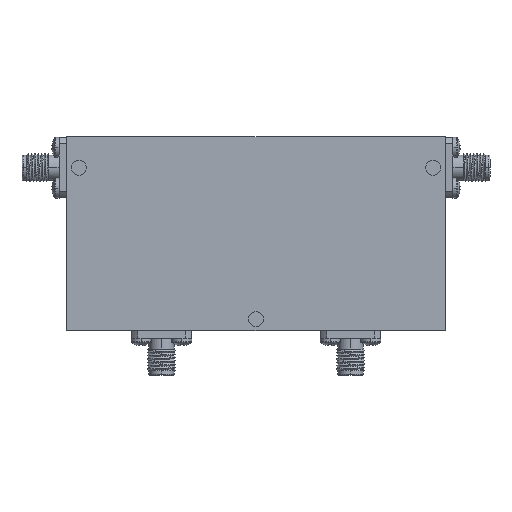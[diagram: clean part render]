
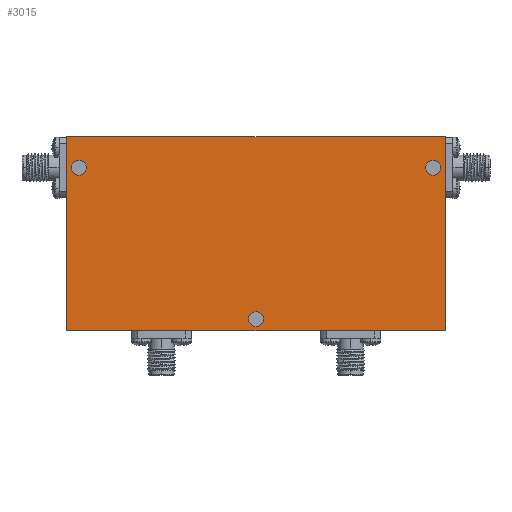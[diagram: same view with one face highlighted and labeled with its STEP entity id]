
A CAD part, top view. The second image highlights one B-rep face of the part: STEP entity #3015.
In plain terms, the highlighted planar face has unit normal (0, 0, 1).
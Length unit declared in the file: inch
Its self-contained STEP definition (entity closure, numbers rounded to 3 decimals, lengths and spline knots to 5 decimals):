
#29 = EDGE_CURVE ( 'NONE', #2453, #2862, #1216, .T. ) ;
#41 = AXIS2_PLACEMENT_3D ( 'NONE', #1481, #583, #3608 ) ;
#107 = EDGE_CURVE ( 'NONE', #1220, #871, #3563, .T. ) ;
#112 = CARTESIAN_POINT ( 'NONE',  ( -1.58, 0.81, 0.365 ) ) ;
#150 = CARTESIAN_POINT ( 'NONE',  ( -1.58, 0.81, 0.365 ) ) ;
#158 = EDGE_CURVE ( 'NONE', #1556, #3147, #3470, .T. ) ;
#159 = DIRECTION ( 'NONE',  ( 1., 0., 0. ) ) ;
#226 = EDGE_CURVE ( 'NONE', #2862, #2453, #3748, .T. ) ;
#251 = DIRECTION ( 'NONE',  ( 1., 0., 0. ) ) ;
#261 = DIRECTION ( 'NONE',  ( 1., 0., 0. ) ) ;
#267 = DIRECTION ( 'NONE',  ( 0., 0., 1. ) ) ;
#334 = CARTESIAN_POINT ( 'NONE',  ( 1.4175, 0.55, 0.365 ) ) ;
#420 = ORIENTED_EDGE ( 'NONE', *, *, #1489, .T. ) ;
#478 = VERTEX_POINT ( 'NONE', #2873 ) ;
#482 = EDGE_LOOP ( 'NONE', ( #1180, #3653 ) ) ;
#543 = AXIS2_PLACEMENT_3D ( 'NONE', #1025, #1297, #1284 ) ;
#564 = EDGE_CURVE ( 'NONE', #915, #1155, #3223, .T. ) ;
#583 = DIRECTION ( 'NONE',  ( 0., 0., 1. ) ) ;
#666 = EDGE_LOOP ( 'NONE', ( #864, #1137 ) ) ;
#742 = EDGE_LOOP ( 'NONE', ( #3325, #3094, #420, #2582 ) ) ;
#777 = DIRECTION ( 'NONE',  ( 0., 0., 1. ) ) ;
#864 = ORIENTED_EDGE ( 'NONE', *, *, #2351, .F. ) ;
#871 = VERTEX_POINT ( 'NONE', #1540 ) ;
#915 = VERTEX_POINT ( 'NONE', #3054 ) ;
#966 = FACE_BOUND ( 'NONE', #3384, .T. ) ;
#1025 = CARTESIAN_POINT ( 'NONE',  ( 1.48, 0.55, 0.365 ) ) ;
#1031 = VECTOR ( 'NONE', #1146, 39.37008 ) ;
#1137 = ORIENTED_EDGE ( 'NONE', *, *, #107, .F. ) ;
#1146 = DIRECTION ( 'NONE',  ( 0., -1., 0. ) ) ;
#1155 = VERTEX_POINT ( 'NONE', #3677 ) ;
#1180 = ORIENTED_EDGE ( 'NONE', *, *, #29, .F. ) ;
#1199 = CARTESIAN_POINT ( 'NONE',  ( -1.48, 0.55, 0.365 ) ) ;
#1216 = CIRCLE ( 'NONE', #1660, 0.0625 ) ;
#1220 = VERTEX_POINT ( 'NONE', #2222 ) ;
#1246 = CIRCLE ( 'NONE', #2340, 0.0625 ) ;
#1283 = VECTOR ( 'NONE', #2471, 39.37008 ) ;
#1284 = DIRECTION ( 'NONE',  ( 1., 0., 0. ) ) ;
#1297 = DIRECTION ( 'NONE',  ( 0., 0., 1. ) ) ;
#1346 = CARTESIAN_POINT ( 'NONE',  ( -1.58, 0.81, 0.365 ) ) ;
#1424 = FACE_BOUND ( 'NONE', #666, .T. ) ;
#1481 = CARTESIAN_POINT ( 'NONE',  ( -1.48, 0.55, 0.365 ) ) ;
#1489 = EDGE_CURVE ( 'NONE', #3743, #915, #1808, .T. ) ;
#1540 = CARTESIAN_POINT ( 'NONE',  ( 0.0625, -0.715, 0.365 ) ) ;
#1556 = VERTEX_POINT ( 'NONE', #3236 ) ;
#1616 = DIRECTION ( 'NONE',  ( 1., 0., 0. ) ) ;
#1636 = CARTESIAN_POINT ( 'NONE',  ( 1.58, 0.81, 0.365 ) ) ;
#1660 = AXIS2_PLACEMENT_3D ( 'NONE', #3742, #1939, #159 ) ;
#1739 = VECTOR ( 'NONE', #1941, 39.37008 ) ;
#1782 = EDGE_CURVE ( 'NONE', #3147, #1556, #2793, .T. ) ;
#1808 = LINE ( 'NONE', #1346, #1031 ) ;
#1906 = CARTESIAN_POINT ( 'NONE',  ( 0., -0.715, 0.365 ) ) ;
#1939 = DIRECTION ( 'NONE',  ( 0., 0., 1. ) ) ;
#1941 = DIRECTION ( 'NONE',  ( 0., 1., 0. ) ) ;
#2008 = DIRECTION ( 'NONE',  ( 0., 0., 1. ) ) ;
#2068 = FACE_BOUND ( 'NONE', #482, .T. ) ;
#2165 = LINE ( 'NONE', #112, #1283 ) ;
#2189 = AXIS2_PLACEMENT_3D ( 'NONE', #1906, #777, #1616 ) ;
#2222 = CARTESIAN_POINT ( 'NONE',  ( -0.0625, -0.715, 0.365 ) ) ;
#2338 = DIRECTION ( 'NONE',  ( 1., 0., 0. ) ) ;
#2340 = AXIS2_PLACEMENT_3D ( 'NONE', #3423, #2868, #3162 ) ;
#2351 = EDGE_CURVE ( 'NONE', #871, #1220, #1246, .T. ) ;
#2422 = VECTOR ( 'NONE', #261, 39.37008 ) ;
#2453 = VERTEX_POINT ( 'NONE', #3796 ) ;
#2471 = DIRECTION ( 'NONE',  ( -1., 0., 0. ) ) ;
#2582 = ORIENTED_EDGE ( 'NONE', *, *, #564, .T. ) ;
#2617 = CARTESIAN_POINT ( 'NONE',  ( -1.58, -0.81, 0.365 ) ) ;
#2793 = CIRCLE ( 'NONE', #41, 0.0625 ) ;
#2862 = VERTEX_POINT ( 'NONE', #334 ) ;
#2868 = DIRECTION ( 'NONE',  ( 0., 0., 1. ) ) ;
#2873 = CARTESIAN_POINT ( 'NONE',  ( 1.58, 0.81, 0.365 ) ) ;
#2955 = EDGE_CURVE ( 'NONE', #478, #3743, #2165, .T. ) ;
#3015 = ADVANCED_FACE ( 'NONE', ( #2068, #1424, #966, #3541 ), #3547, .T. ) ;
#3028 = ORIENTED_EDGE ( 'NONE', *, *, #158, .F. ) ;
#3054 = CARTESIAN_POINT ( 'NONE',  ( -1.58, -0.81, 0.365 ) ) ;
#3066 = AXIS2_PLACEMENT_3D ( 'NONE', #1199, #267, #2338 ) ;
#3094 = ORIENTED_EDGE ( 'NONE', *, *, #2955, .T. ) ;
#3147 = VERTEX_POINT ( 'NONE', #3185 ) ;
#3162 = DIRECTION ( 'NONE',  ( 1., 0., 0. ) ) ;
#3185 = CARTESIAN_POINT ( 'NONE',  ( -1.4175, 0.55, 0.365 ) ) ;
#3198 = CARTESIAN_POINT ( 'NONE',  ( 0., 0., 0.365 ) ) ;
#3223 = LINE ( 'NONE', #2617, #2422 ) ;
#3236 = CARTESIAN_POINT ( 'NONE',  ( -1.5425, 0.55, 0.365 ) ) ;
#3290 = LINE ( 'NONE', #1636, #1739 ) ;
#3325 = ORIENTED_EDGE ( 'NONE', *, *, #3713, .T. ) ;
#3384 = EDGE_LOOP ( 'NONE', ( #3551, #3028 ) ) ;
#3414 = AXIS2_PLACEMENT_3D ( 'NONE', #3198, #2008, #251 ) ;
#3423 = CARTESIAN_POINT ( 'NONE',  ( 0., -0.715, 0.365 ) ) ;
#3470 = CIRCLE ( 'NONE', #3066, 0.0625 ) ;
#3541 = FACE_OUTER_BOUND ( 'NONE', #742, .T. ) ;
#3547 = PLANE ( 'NONE',  #3414 ) ;
#3551 = ORIENTED_EDGE ( 'NONE', *, *, #1782, .F. ) ;
#3563 = CIRCLE ( 'NONE', #2189, 0.0625 ) ;
#3608 = DIRECTION ( 'NONE',  ( 1., 0., 0. ) ) ;
#3653 = ORIENTED_EDGE ( 'NONE', *, *, #226, .F. ) ;
#3677 = CARTESIAN_POINT ( 'NONE',  ( 1.58, -0.81, 0.365 ) ) ;
#3713 = EDGE_CURVE ( 'NONE', #1155, #478, #3290, .T. ) ;
#3742 = CARTESIAN_POINT ( 'NONE',  ( 1.48, 0.55, 0.365 ) ) ;
#3743 = VERTEX_POINT ( 'NONE', #150 ) ;
#3748 = CIRCLE ( 'NONE', #543, 0.0625 ) ;
#3796 = CARTESIAN_POINT ( 'NONE',  ( 1.5425, 0.55, 0.365 ) ) ;
